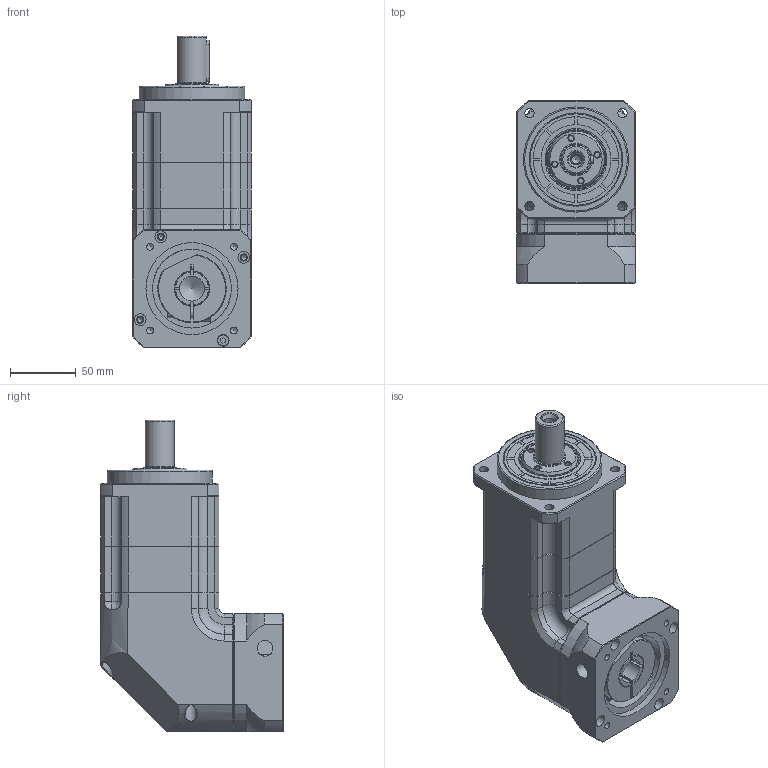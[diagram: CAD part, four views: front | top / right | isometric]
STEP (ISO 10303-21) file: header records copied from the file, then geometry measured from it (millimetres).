
FILE_DESCRIPTION(/* description */ (''),/* implementation_level */ '2;1');
FILE_NAME(/* name */ 'TBR090-L2-19-70-90-M6-49-6.stp',/* time_stamp */ '2020-11-25T08:50:04+08:00',/* author */ (''),/* organization */ (''),/* preprocessor_version */ 'ST-DEVELOPER v16',/* originating_system */ 'SIEMENS PLM Software NX 10.0',/* authorisation */ '');
FILE_SCHEMA (('CONFIG_CONTROL_DESIGN'));
Length unit declared in the file: millimetre
Products named in the file (1): _model297
Bounding box: 90 x 139 x 236.85 mm (x, y, z)
Volume: 981219 mm3; surface area: 237612.6 mm2
Topology: 11 solids, 12 shells, 748 faces, 1813 edges, 1159 vertices
Faces by surface type: plane 328, cylinder 248, cone 114, torus 40, bspline 18
Full cylindrical faces by diameter (mm): 4 x4, 4.2 x8, 5 x2, 5.2 x4, 5.276 x6, 5.5 x12, 6.8 x2, 7 x4, 8 x1, 8.4 x1, 8.5 x3, 9 x8, 12 x2, 13 x2, 13.5 x1, 19 x1, 19.3 x1, 22 x2, 22.8 x1, 23 x1, 24 x1, 25 x1, 28 x1, 28.6 x1, 29 x2, 29.2 x1, 30 x3, 32.54 x1, 33 x1, 33.6 x1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
Entity records: 22107 total; most frequent: CARTESIAN_POINT 5474, DIRECTION 3512, ORIENTED_EDGE 3076, EDGE_CURVE 1538, AXIS2_PLACEMENT_3D 1422, VERTEX_POINT 1097, EDGE_LOOP 1085, ADVANCED_FACE 748
